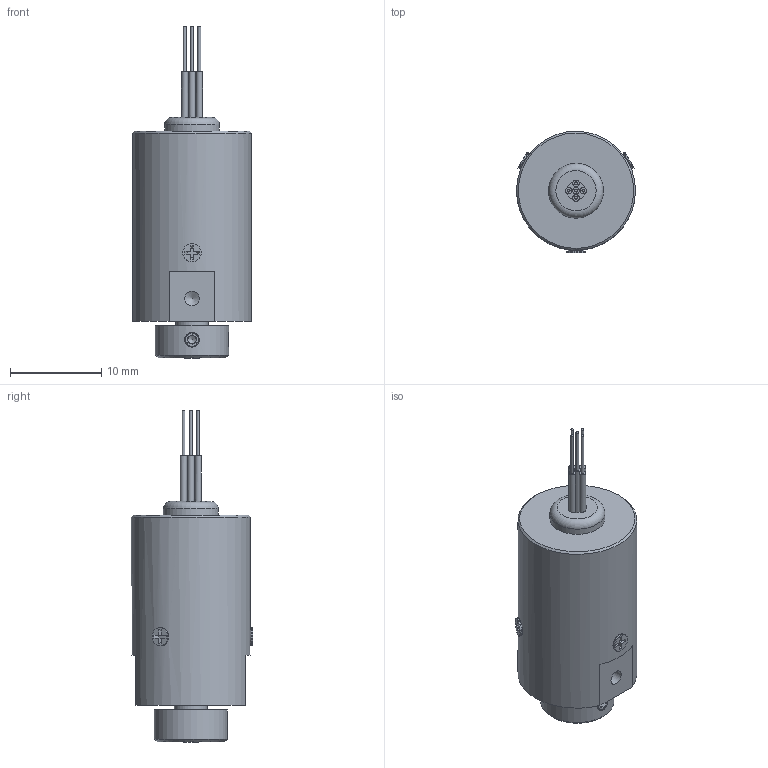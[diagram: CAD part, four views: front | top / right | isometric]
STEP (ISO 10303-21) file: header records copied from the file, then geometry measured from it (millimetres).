
FILE_DESCRIPTION(('FreeCAD Model'),'2;1');
FILE_NAME('Open CASCADE Shape Model','2023-07-03T12:03:24',(''),(''), 'Open CASCADE STEP processor 7.6','FreeCAD','Unknown');
FILE_SCHEMA(('AUTOMOTIVE_DESIGN { 1 0 10303 214 1 1 1 1 }'));
Length unit declared in the file: millimetre
Products named in the file (1): MOT13 H
Bounding box: 13 x 13.25 x 36.3 mm (x, y, z)
Volume: 2931.5 mm3; surface area: 1530.1 mm2
Topology: 1 solids, 1 shells, 156 faces, 380 edges, 245 vertices
Faces by surface type: plane 87, cylinder 46, cone 22, torus 1
Full cylindrical faces by diameter (mm): 0.3 x5, 0.7 x5, 1.4 x6, 1.5 x5, 1.6 x8, 2 x3, 3.6 x1, 6 x1, 8 x1, 13 x1
Entity records: 5020 total; most frequent: CARTESIAN_POINT 1423, ORIENTED_EDGE 742, DIRECTION 724, EDGE_CURVE 371, AXIS2_PLACEMENT_3D 285, VERTEX_POINT 245, FACE_BOUND 184, EDGE_LOOP 184
